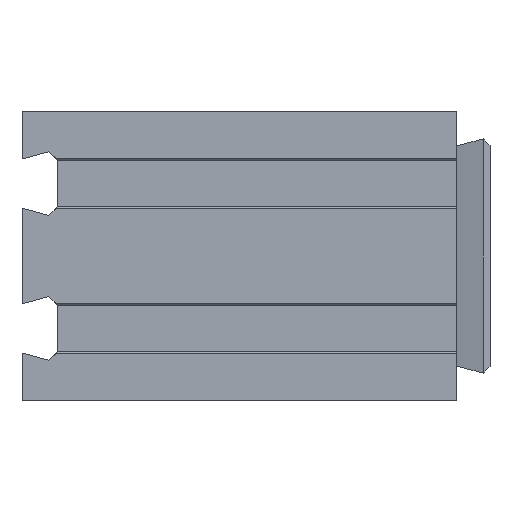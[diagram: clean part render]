
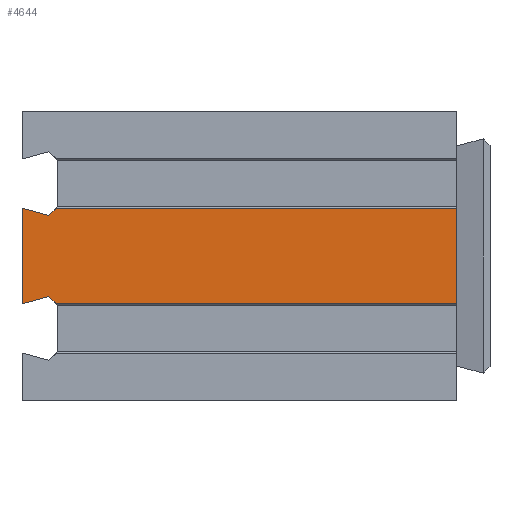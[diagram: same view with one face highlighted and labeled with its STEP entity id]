
A CAD part, left-side view. The second image highlights one B-rep face of the part: STEP entity #4644.
In plain terms, the highlighted planar face has unit normal (-1, 0, 0).
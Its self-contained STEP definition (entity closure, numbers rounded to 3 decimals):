
#134=FACE_OUTER_BOUND('',#408,.T.);
#408=EDGE_LOOP('',(#3436,#3437,#3438,#3439,#3440,#3441,#3442,#3443));
#818=LINE('',#6767,#1474);
#827=LINE('',#6784,#1483);
#883=LINE('',#6895,#1539);
#884=LINE('',#6897,#1540);
#885=LINE('',#6899,#1541);
#886=LINE('',#6901,#1542);
#887=LINE('',#6903,#1543);
#888=LINE('',#6904,#1544);
#1474=VECTOR('',#5483,10.);
#1483=VECTOR('',#5498,10.);
#1539=VECTOR('',#5600,10.);
#1540=VECTOR('',#5601,10.);
#1541=VECTOR('',#5602,10.);
#1542=VECTOR('',#5603,10.);
#1543=VECTOR('',#5604,10.);
#1544=VECTOR('',#5605,10.);
#2058=VERTEX_POINT('',#6765);
#2059=VERTEX_POINT('',#6766);
#2064=VERTEX_POINT('',#6783);
#2096=VERTEX_POINT('',#6894);
#2097=VERTEX_POINT('',#6896);
#2098=VERTEX_POINT('',#6898);
#2099=VERTEX_POINT('',#6900);
#2100=VERTEX_POINT('',#6902);
#2526=EDGE_CURVE('',#2058,#2059,#818,.T.);
#2535=EDGE_CURVE('',#2064,#2058,#827,.T.);
#2591=EDGE_CURVE('',#2059,#2096,#883,.T.);
#2592=EDGE_CURVE('',#2096,#2097,#884,.T.);
#2593=EDGE_CURVE('',#2097,#2098,#885,.T.);
#2594=EDGE_CURVE('',#2098,#2099,#886,.T.);
#2595=EDGE_CURVE('',#2100,#2099,#887,.T.);
#2596=EDGE_CURVE('',#2100,#2064,#888,.T.);
#3436=ORIENTED_EDGE('',*,*,#2535,.T.);
#3437=ORIENTED_EDGE('',*,*,#2526,.T.);
#3438=ORIENTED_EDGE('',*,*,#2591,.T.);
#3439=ORIENTED_EDGE('',*,*,#2592,.T.);
#3440=ORIENTED_EDGE('',*,*,#2593,.T.);
#3441=ORIENTED_EDGE('',*,*,#2594,.T.);
#3442=ORIENTED_EDGE('',*,*,#2595,.F.);
#3443=ORIENTED_EDGE('',*,*,#2596,.T.);
#4370=PLANE('',#4925);
#4644=ADVANCED_FACE('',(#134),#4370,.T.);
#4925=AXIS2_PLACEMENT_3D('',#6893,#5598,#5599);
#5483=DIRECTION('',(0.,0.966,0.259));
#5498=DIRECTION('',(0.,0.707,-0.707));
#5598=DIRECTION('center_axis',(-1.,0.,0.));
#5599=DIRECTION('ref_axis',(0.,0.,1.));
#5600=DIRECTION('',(0.,0.,-1.));
#5601=DIRECTION('',(0.,-0.966,0.259));
#5602=DIRECTION('',(0.,-0.707,-0.707));
#5603=DIRECTION('',(0.,-1.,0.));
#5604=DIRECTION('',(0.,0.,-1.));
#5605=DIRECTION('',(0.,1.,0.));
#6765=CARTESIAN_POINT('',(-5.,28.145,12.803));
#6766=CARTESIAN_POINT('',(-5.,30.,13.3));
#6767=CARTESIAN_POINT('',(-5.,14.74,9.211));
#6783=CARTESIAN_POINT('',(-5.,27.648,13.3));
#6784=CARTESIAN_POINT('',(-5.,23.134,17.814));
#6893=CARTESIAN_POINT('Origin',(-5.,1.5,5.));
#6894=CARTESIAN_POINT('',(-5.,30.,6.7));
#6895=CARTESIAN_POINT('',(-5.,30.,10.));
#6896=CARTESIAN_POINT('',(-5.,28.145,7.197));
#6897=CARTESIAN_POINT('',(-5.,16.917,10.206));
#6898=CARTESIAN_POINT('',(-5.,27.648,6.7));
#6899=CARTESIAN_POINT('',(-5.,20.935,-0.014));
#6900=CARTESIAN_POINT('',(-5.,0.,6.7));
#6901=CARTESIAN_POINT('',(-5.,15.75,6.7));
#6902=CARTESIAN_POINT('',(-5.,0.,13.3));
#6903=CARTESIAN_POINT('',(-5.,0.,12.5));
#6904=CARTESIAN_POINT('',(-5.,15.75,13.3));
